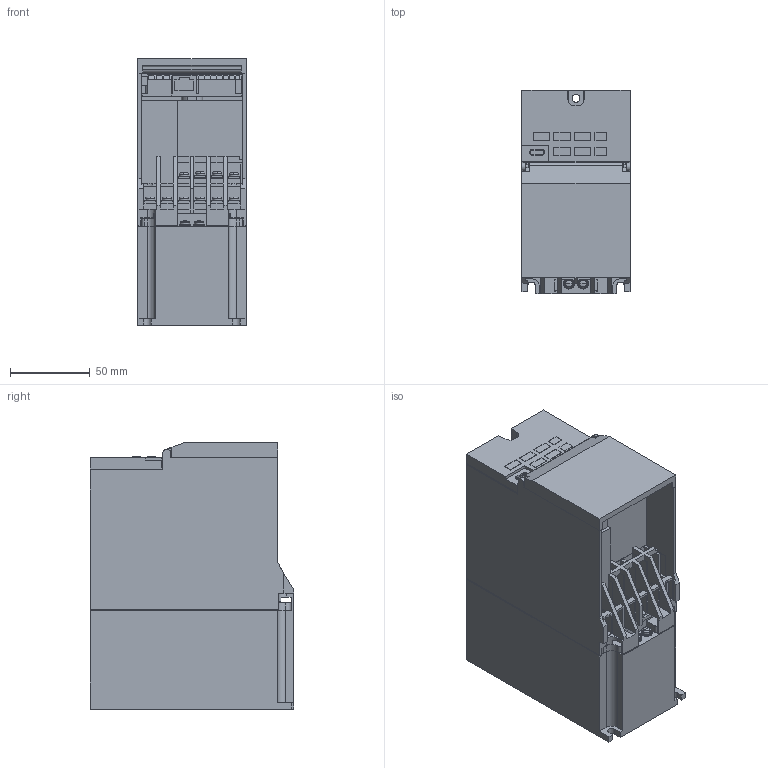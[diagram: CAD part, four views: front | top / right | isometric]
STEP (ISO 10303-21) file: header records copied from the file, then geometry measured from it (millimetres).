
FILE_DESCRIPTION((''),'2;1');
FILE_NAME('3D-INV-52_03_ASM','2024-11-29T10:23:03',('CT89920'),(''),'CREO PARAMETRIC BY PTC INC, 2022281','CREO PARAMETRIC BY PTC INC, 2022281','');
FILE_SCHEMA(('CONFIG_CONTROL_DESIGN','SHAPE_APPEARANCE_LAYERS_GROUPS'));
Length unit declared in the file: millimetre
Products named in the file (7): 3D-BASE-52_03E; 3D-TE_SHORT-51_01; 3D-TE_NEJI-M3_5X8-ZA7; 3D-TE-NEJI-51_02_ASM; 3D-SW-PW-P-M3_5X10; 3D-S_COV-D80-0_75; 3D-INV-52_03_ASM
Assembly tree (16 placements, depth 3):
  3D-INV-52_03_ASM
    3D-BASE-52_03E
    3D-TE-NEJI-51_02_ASM
      3D-TE_SHORT-51_01
      3D-TE_NEJI-M3_5X8-ZA7  x10
    3D-SW-PW-P-M3_5X10  x2
    3D-S_COV-D80-0_75
Bounding box: 68 x 128 x 167.5 mm (x, y, z)
Volume: 680262 mm3; surface area: 177868.5 mm2
Topology: 15 solids, 15 shells, 886 faces, 2406 edges, 1563 vertices
Faces by surface type: plane 720, cylinder 134, torus 24, cone 4, sphere 4
Entity records: 29019 total; most frequent: CARTESIAN_POINT 4288, ORIENTED_EDGE 4240, DIRECTION 3894, EDGE_CURVE 2120, VECTOR 1898, LINE 1898, VERTEX_POINT 1382, AXIS2_PLACEMENT_3D 998
